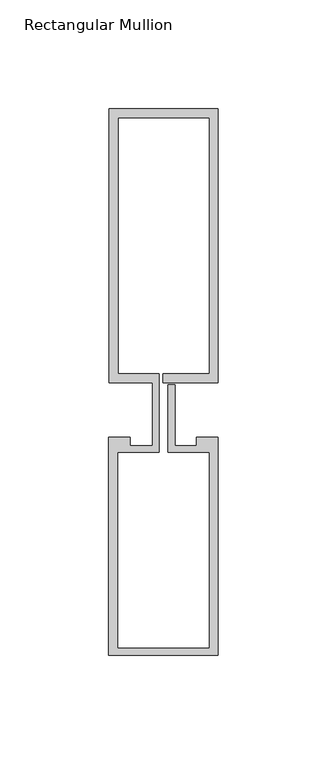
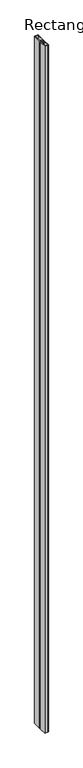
"""IFC4 building model written with IfcOpenShell, lengths in millimetres: member geometry, Rectangular Mullion : Reynaers_CW-50_Mullion-Transom_Vertical_125.5mm_Facecap-02D."""

import ifcopenshell
import ifcopenshell.guid

model = None  # the IFC model being written
_history = None  # IfcOwnerHistory: only IFC2X3 demands one
_inside = {}  # id of a spatial element -> (the spatial element, [elements in it])
_under = {}  # id of a project, library or spatial element -> (it, [spatial elements below it])
_declared = {}  # id of a project -> (the project, [libraries it declares])
_typed = {}  # id of a type object -> (the type object, [elements of that type])
_made_of = {}  # id of a material, layer set ... -> (it, [elements and type objects made of it])


def new_model(schema):
    """Start an empty IFC model of exactly this schema.

    Asked for "IFC4X3", IfcOpenShell would pick the latest addendum, in which some entities
    have other attributes; the version numbers below select the first issue.
    IFC2X3 requires an IfcOwnerHistory on every rooted entity: one is made here for all.
    """
    global model, _history
    if schema == "IFC4X3":
        model = ifcopenshell.file(schema_version=(4, 3, 0, 0))
    else:
        model = ifcopenshell.file(schema=schema)
    _inside.clear()
    _under.clear()
    _declared.clear()
    _typed.clear()
    _made_of.clear()
    _history = None
    if model.schema == "IFC2X3":
        org = make("IfcOrganization", Name="unknown")
        user = make(
            "IfcPersonAndOrganization",
            ThePerson=make("IfcPerson", FamilyName="unknown"),
            TheOrganization=org,
        )
        app = make(
            "IfcApplication",
            ApplicationDeveloper=org,
            Version="unknown",
            ApplicationFullName="unknown",
            ApplicationIdentifier="unknown",
        )
        _history = make(
            "IfcOwnerHistory",
            OwningUser=user,
            OwningApplication=app,
            ChangeAction="ADDED",
            CreationDate=0,
        )
    return model


def make(cls, **values):
    """One entity of the class cls with the attributes given. An attribute that is None is left unset."""
    return model.create_entity(
        cls, **{name: value for name, value in values.items() if value is not None}
    )


def rooted(cls, **values):
    """An entity with a GlobalId (a new one), such as an element, a storey or a relation."""
    return make(cls, GlobalId=ifcopenshell.guid.new(), OwnerHistory=_history, **values)


def si_unit(unit_type, name, prefix=None):
    """IfcSIUnit, for example si_unit("LENGTHUNIT", "METRE", prefix="MILLI")."""
    return make("IfcSIUnit", UnitType=unit_type, Prefix=prefix, Name=name)


def assignment(units):
    """IfcUnitAssignment: the units of a project."""
    return None if units is None else make("IfcUnitAssignment", Units=units)


def point(xyz):
    """IfcCartesianPoint."""
    return None if xyz is None else make("IfcCartesianPoint", Coordinates=xyz)


def direction(xyz):
    """IfcDirection."""
    return None if xyz is None else make("IfcDirection", DirectionRatios=xyz)


def frame(location, z_axis=None, x_axis=None):
    """IfcAxis2Placement3D, a coordinate frame: its origin and axes. An axis left out is left unset."""
    return make(
        "IfcAxis2Placement3D",
        Location=point(location),
        Axis=direction(z_axis),
        RefDirection=direction(x_axis),
    )


def origin():
    """The frame at (0, 0, 0) with its axes left unset."""
    return frame((0.0, 0.0, 0.0))


def place(relative_to, where):
    """IfcLocalPlacement: puts the frame where relative to a parent placement (None: the world)."""
    return make(
        "IfcLocalPlacement", PlacementRelTo=relative_to, RelativePlacement=where
    )


def context(
    kind, dimensions, precision=None, world=None, true_north=None, identifier=None
):
    """IfcGeometricRepresentationContext, for example the 3D "Model" context."""
    return make(
        "IfcGeometricRepresentationContext",
        ContextIdentifier=identifier,
        ContextType=kind,
        CoordinateSpaceDimension=dimensions,
        Precision=precision,
        WorldCoordinateSystem=world,
        TrueNorth=true_north,
    )


def project(units=None, contexts=None):
    """IfcProject with its units and contexts."""
    return rooted(
        "IfcProject",
        Name="project",
        RepresentationContexts=contexts,
        UnitsInContext=assignment(units),
    )


def spatial(cls, under=None, at=None, **own):
    """A site, building, storey or space (cls), placed at a placement, below another one or the project."""
    s = rooted(cls, ObjectPlacement=at, **own)
    if under is not None:
        _under.setdefault(under.id(), (under, []))[1].append(s)
    return s


def polyline(points):
    """IfcPolyline through the points."""
    return make("IfcPolyline", Points=[point(p) for p in points])


def outline(outer, holes=None, kind="AREA"):
    """IfcArbitraryClosedProfileDef: a profile drawn as a closed curve; with holes, ...WithVoids."""
    if holes is None:
        return make("IfcArbitraryClosedProfileDef", ProfileType=kind, OuterCurve=outer)
    return make(
        "IfcArbitraryProfileDefWithVoids",
        ProfileType=kind,
        OuterCurve=outer,
        InnerCurves=holes,
    )


def extrude(swept, where, along, depth):
    """IfcExtrudedAreaSolid: the profile swept, set in the frame where, extruded along a direction by depth."""
    return make(
        "IfcExtrudedAreaSolid",
        SweptArea=swept,
        Position=where,
        ExtrudedDirection=direction(along),
        Depth=depth,
    )


def shape(context_of_items, identifier, shape_type, items):
    """IfcShapeRepresentation: the items that make up one representation, for example the "Body"."""
    return make(
        "IfcShapeRepresentation",
        ContextOfItems=context_of_items,
        RepresentationIdentifier=identifier,
        RepresentationType=shape_type,
        Items=items,
    )


def source(mapping_origin, context_of_items, identifier, shape_type, items):
    """IfcRepresentationMap: a shape defined once, which mapped items show again and again."""
    return make(
        "IfcRepresentationMap",
        MappingOrigin=mapping_origin,
        MappedRepresentation=shape(context_of_items, identifier, shape_type, items),
    )


def transform(
    local_origin,
    x_axis=None,
    y_axis=None,
    z_axis=None,
    scale=None,
    scale2=None,
    scale3=None,
    uniform=True,
):
    """IfcCartesianTransformationOperator3D, or its non-uniform kind. x_axis, y_axis, z_axis: its Axis1, 2, 3."""
    if uniform:
        return make(
            "IfcCartesianTransformationOperator3D",
            Axis1=direction(x_axis),
            Axis2=direction(y_axis),
            LocalOrigin=point(local_origin),
            Scale=scale,
            Axis3=direction(z_axis),
        )
    return make(
        "IfcCartesianTransformationOperator3DnonUniform",
        Axis1=direction(x_axis),
        Axis2=direction(y_axis),
        LocalOrigin=point(local_origin),
        Scale=scale,
        Axis3=direction(z_axis),
        Scale2=scale2,
        Scale3=scale3,
    )


def mapped(mapping_source, mapping_target):
    """IfcMappedItem: shows the shape of a source again, moved by a transform."""
    return make(
        "IfcMappedItem", MappingSource=mapping_source, MappingTarget=mapping_target
    )


def made_of(thing, what):
    """Note that an element or type object is made of a material, layer set ...; save() writes the relation."""
    if what is not None:
        _made_of.setdefault(what.id(), (what, []))[1].append(thing)
    return thing


def element(
    cls,
    number,
    at=None,
    inside=None,
    cuts=None,
    type_object=None,
    material=None,
    context=None,
    identifier="Body",
    shape_type=None,
    held_by="IfcProductDefinitionShape",
    body=None,
    shapes=None,
    **own,
):
    """One element of the class cls, such as IfcWall. Its Tag is "e" and its number.

    at: its placement. inside: the storey or other place that contains it. cuts: it is an
    opening in that element (IfcRelVoidsElement). A single representation is given by context,
    identifier, shape_type and body (its items); several are given by shapes. held_by: the class
    of the entity that holds the representations. save() writes the other relations.
    """
    e = rooted(cls, Tag="e%d" % number, ObjectPlacement=at, **own)
    if body is not None:
        shapes = [shape(context, identifier, shape_type, body)]
    if shapes is not None:
        e.Representation = make(held_by, Representations=shapes)
    if inside is not None:
        _inside.setdefault(inside.id(), (inside, []))[1].append(e)
    if cuts is not None:
        rooted(
            "IfcRelVoidsElement", RelatingBuildingElement=cuts, RelatedOpeningElement=e
        )
    if type_object is not None:
        _typed.setdefault(type_object.id(), (type_object, []))[1].append(e)
    return made_of(e, material)


def aggregate(whole, parts):
    """IfcRelAggregates: a whole, such as a stair, and the parts it consists of."""
    return rooted("IfcRelAggregates", RelatingObject=whole, RelatedObjects=parts)


def save(model, path):
    """Write the relations noted so far, then the file.

    IfcRelAggregates (storeys below a building ...), IfcRelContainedInSpatialStructure (elements
    in a storey), IfcRelDefinesByType, IfcRelAssociatesMaterial and IfcRelDeclares: one each for
    every whole, place, type object, material and project.
    """
    for whole, parts in _under.values():
        aggregate(whole, parts)
    for where, things in _inside.values():
        rooted(
            "IfcRelContainedInSpatialStructure",
            RelatedElements=things,
            RelatingStructure=where,
        )
    for kind, things in _typed.values():
        rooted("IfcRelDefinesByType", RelatedObjects=things, RelatingType=kind)
    for what, things in _made_of.values():
        rooted("IfcRelAssociatesMaterial", RelatedObjects=things, RelatingMaterial=what)
    for by, libraries in _declared.values():
        rooted("IfcRelDeclares", RelatingContext=by, RelatedDefinitions=libraries)
    model.write(path)


def rectangular_mullion_04f7fac3(model_context):
    return source(origin(), model_context, "Body", "SweptSolid", [
        extrude(outline(polyline([(-24.8004059, 138.0), (25.1995941, 138.0), (25.1995941, 12.5), (0.0, 12.5), (0.0, 16.5), (21.1995941, 16.5), (21.1995941, 134.0), (-20.8004059, 134.0), (-20.8004059, 16.5), (-1.9004059, 16.5), (-1.9004059, -19.5), (-20.994845, -19.5), (-20.994845, -109.4191338), (21.1995941, -109.4191338), (21.1995941, -19.5), (2.2995941, -19.5), (2.2995941, 11.5), (5.2995941, 11.5), (5.2995941, -16.5), (15.2996495, -16.5), (15.2996495, -12.5), (25.1995941, -12.5), (25.1995941, -112.5), (-24.994845, -112.5), (-24.994845, -12.5), (-15.2996495, -12.5), (-15.2996495, -16.5), (-4.9004059, -16.5), (-4.9004059, 12.5), (-24.8004059, 12.5), (-24.8004059, 138.0)])), frame((0.0, 0.0, -10400.0), z_axis=(0.0, 0.0, 1.0), x_axis=(1.0, 0.0, 0.0)), (0.0, 0.0, 1.0), 10400.0),
    ])


if __name__ == "__main__":
    model = new_model("IFC4")
    model_context = context("Model", 3, world=origin())
    ifc_project = project(units=[si_unit("LENGTHUNIT", "METRE", prefix="MILLI")], contexts=[model_context])
    site = spatial("IfcSite", under=ifc_project)
    building = spatial("IfcBuilding", under=site)
    placement = place(None, origin())
    rectangular_mullion_shape = rectangular_mullion_04f7fac3(model_context)
    element("IfcMember", 1, ObjectType="Rectangular Mullion : Reynaers_CW-50_Mullion-Transom_Vertical_125.5mm_Facecap-02D", at=placement, inside=building, context=model_context, shape_type="MappedRepresentation", body=[
        mapped(rectangular_mullion_shape, transform((0.0, 0.0, 0.0), x_axis=(1.0, 0.0, 0.0), y_axis=(0.0, 1.0, 0.0), z_axis=(0.0, 0.0, 1.0))),
    ])
    save(model, "model.ifc")
